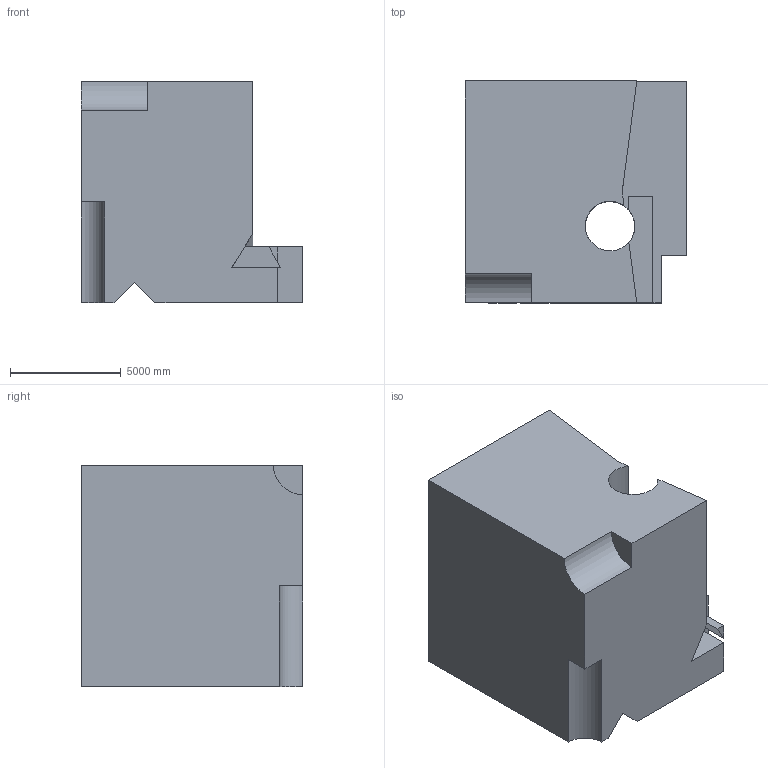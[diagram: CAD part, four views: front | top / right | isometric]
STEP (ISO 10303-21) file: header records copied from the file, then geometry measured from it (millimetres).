
FILE_DESCRIPTION (( 'STEP AP203' ), '1' );
FILE_NAME ('769.STEP', '2022-07-29T13:04:58', ( 'user' ), ( '' ), 'SwSTEP 2.0', 'SolidWorks 2021', '' );
FILE_SCHEMA (( 'CONFIG_CONTROL_DESIGN' ));
Length unit declared in the file: centimetre
Products named in the file (1): 769
Bounding box: 10000 x 10000 x 10000 mm (x, y, z)
Volume: 736310447346.3 mm3; surface area: 620195323.6 mm2
Topology: 1 solids, 1 shells, 38 faces, 111 edges, 74 vertices
Faces by surface type: plane 34, cylinder 4
Entity records: 1327 total; most frequent: CARTESIAN_POINT 254, ORIENTED_EDGE 222, DIRECTION 190, EDGE_CURVE 111, VECTOR 90, LINE 90, VERTEX_POINT 74, AXIS2_PLACEMENT_3D 50
